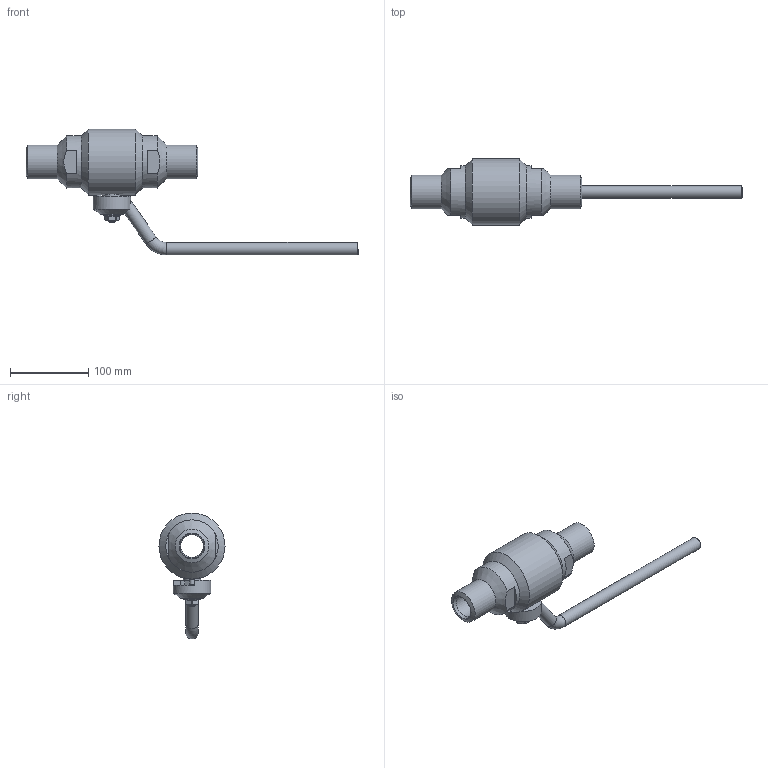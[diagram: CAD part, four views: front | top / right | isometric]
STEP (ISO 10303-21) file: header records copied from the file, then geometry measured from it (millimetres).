
FILE_DESCRIPTION(('STEP AP203'), '1');
FILE_NAME('ZARD 032.250.40.P.stp', '2013-12-06T06:17:43', ('Øèøêî'), ('Ýíåðïðåä ßðäîñ'), 'ASCON STEP Converter 1.3', 'Kompas 3D', '');
FILE_SCHEMA(('CONFIG_CONTROL_DESIGN','SUPPORT_RESOURCE_SCHEMA'));
Length unit declared in the file: millimetre
Products named in the file (1): 61
Bounding box: 425.01 x 84.5 x 161.25 mm (x, y, z)
Volume: 611205.9 mm3; surface area: 101275.2 mm2
Topology: 1 solids, 8 shells, 160 faces, 358 edges, 224 vertices
Faces by surface type: plane 80, cylinder 49, cone 23, torus 8
Full cylindrical faces by diameter (mm): 6 x2, 10 x2, 16 x3, 16.1 x1, 21.8 x1, 22 x2, 24 x1, 24.3 x1, 24.5 x1, 29 x2, 43 x2, 48 x1, 58.4 x1, 67 x2, 84.5 x1
Entity records: 6016 total; most frequent: CARTESIAN_POINT 2329, DIRECTION 778, ORIENTED_EDGE 716, EDGE_CURVE 358, AXIS2_PLACEMENT_3D 304, VERTEX_POINT 224, EDGE_LOOP 180, LINE 170
